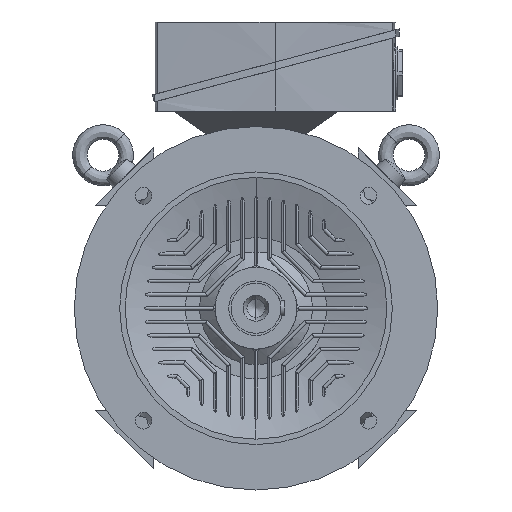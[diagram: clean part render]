
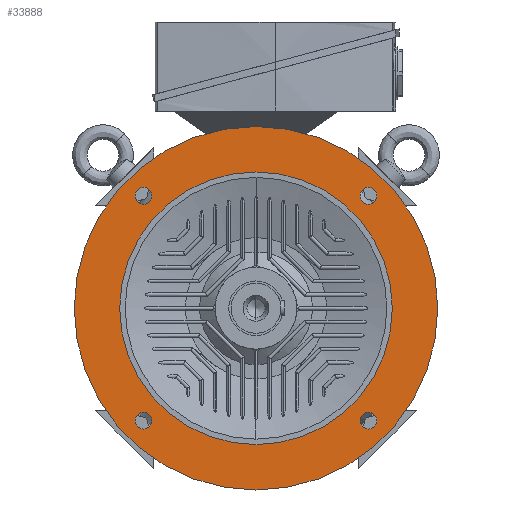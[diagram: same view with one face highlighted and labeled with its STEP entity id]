
A CAD part, left-side view. The second image highlights one B-rep face of the part: STEP entity #33888.
In plain terms, the highlighted planar face has unit normal (-1, 0, 0).
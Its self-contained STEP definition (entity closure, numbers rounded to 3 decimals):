
#42 = CARTESIAN_POINT ( 'NONE',  ( -87., 0., 0. ) ) ;
#235 = CARTESIAN_POINT ( 'NONE',  ( -87., -123.744, 114.494 ) ) ;
#1276 = ORIENTED_EDGE ( 'NONE', *, *, #20151, .T. ) ;
#2068 = CARTESIAN_POINT ( 'NONE',  ( -87., -123.744, -123.744 ) ) ;
#3187 = FACE_BOUND ( 'NONE', #7275, .T. ) ;
#3274 = VERTEX_POINT ( 'NONE', #12873 ) ;
#3490 = DIRECTION ( 'NONE',  ( 0., 0., -1. ) ) ;
#4058 = DIRECTION ( 'NONE',  ( 0., 0., 1. ) ) ;
#5959 = VERTEX_POINT ( 'NONE', #21804 ) ;
#6040 = DIRECTION ( 'NONE',  ( 0., 0., -1. ) ) ;
#6321 = ORIENTED_EDGE ( 'NONE', *, *, #43812, .T. ) ;
#6377 = EDGE_CURVE ( 'NONE', #25760, #15980, #18352, .T. ) ;
#7101 = CIRCLE ( 'NONE', #20906, 9.25 ) ;
#7275 = EDGE_LOOP ( 'NONE', ( #1276, #6321 ) ) ;
#7297 = VERTEX_POINT ( 'NONE', #7811 ) ;
#7348 = DIRECTION ( 'NONE',  ( 1., 0., 0. ) ) ;
#7503 = ORIENTED_EDGE ( 'NONE', *, *, #12934, .T. ) ;
#7811 = CARTESIAN_POINT ( 'NONE',  ( -87., 0., 200. ) ) ;
#8221 = ORIENTED_EDGE ( 'NONE', *, *, #9539, .F. ) ;
#9347 = DIRECTION ( 'NONE',  ( 1., 0., 0. ) ) ;
#9539 = EDGE_CURVE ( 'NONE', #7297, #3274, #33802, .T. ) ;
#9613 = CIRCLE ( 'NONE', #10631, 9.25 ) ;
#9852 = CARTESIAN_POINT ( 'NONE',  ( -87., 123.744, 114.494 ) ) ;
#10165 = CARTESIAN_POINT ( 'NONE',  ( -87., -123.744, 123.744 ) ) ;
#10524 = DIRECTION ( 'NONE',  ( 1., 0., 0. ) ) ;
#10631 = AXIS2_PLACEMENT_3D ( 'NONE', #14321, #42317, #18296 ) ;
#11002 = ORIENTED_EDGE ( 'NONE', *, *, #34655, .T. ) ;
#11992 = CARTESIAN_POINT ( 'NONE',  ( -87., 175., 0. ) ) ;
#12873 = CARTESIAN_POINT ( 'NONE',  ( -87., 0., -200. ) ) ;
#12934 = EDGE_CURVE ( 'NONE', #28394, #16653, #51817, .T. ) ;
#13791 = FACE_BOUND ( 'NONE', #46442, .T. ) ;
#14191 = DIRECTION ( 'NONE',  ( 0., 0., -1. ) ) ;
#14321 = CARTESIAN_POINT ( 'NONE',  ( -87., -123.744, -123.744 ) ) ;
#14571 = ORIENTED_EDGE ( 'NONE', *, *, #39103, .T. ) ;
#14951 = CARTESIAN_POINT ( 'NONE',  ( -87., 0., 0. ) ) ;
#15022 = AXIS2_PLACEMENT_3D ( 'NONE', #14951, #42963, #18928 ) ;
#15549 = AXIS2_PLACEMENT_3D ( 'NONE', #2068, #29927, #6040 ) ;
#15704 = DIRECTION ( 'NONE',  ( 1., 0., 0. ) ) ;
#15807 = EDGE_CURVE ( 'NONE', #15980, #25760, #47303, .T. ) ;
#15980 = VERTEX_POINT ( 'NONE', #36998 ) ;
#15992 = DIRECTION ( 'NONE',  ( 0., 0., 1. ) ) ;
#16480 = DIRECTION ( 'NONE',  ( 1., 0., 0. ) ) ;
#16653 = VERTEX_POINT ( 'NONE', #39963 ) ;
#17719 = VERTEX_POINT ( 'NONE', #37401 ) ;
#18296 = DIRECTION ( 'NONE',  ( 0., 0., -1. ) ) ;
#18352 = CIRCLE ( 'NONE', #23250, 9.25 ) ;
#18928 = DIRECTION ( 'NONE',  ( 0., 0., 1. ) ) ;
#19403 = CARTESIAN_POINT ( 'NONE',  ( -87., 123.744, 123.744 ) ) ;
#19806 = PLANE ( 'NONE',  #20478 ) ;
#20151 = EDGE_CURVE ( 'NONE', #41845, #17719, #34401, .T. ) ;
#20478 = AXIS2_PLACEMENT_3D ( 'NONE', #11992, #39949, #15992 ) ;
#20906 = AXIS2_PLACEMENT_3D ( 'NONE', #19403, #47468, #23406 ) ;
#20957 = CARTESIAN_POINT ( 'NONE',  ( -87., -123.744, -114.494 ) ) ;
#21252 = ORIENTED_EDGE ( 'NONE', *, *, #43273, .F. ) ;
#21804 = CARTESIAN_POINT ( 'NONE',  ( -87., 0., -150. ) ) ;
#21810 = CIRCLE ( 'NONE', #45999, 200. ) ;
#22939 = AXIS2_PLACEMENT_3D ( 'NONE', #51371, #27336, #3490 ) ;
#23104 = FACE_BOUND ( 'NONE', #32631, .T. ) ;
#23250 = AXIS2_PLACEMENT_3D ( 'NONE', #31284, #7348, #35332 ) ;
#23406 = DIRECTION ( 'NONE',  ( 0., 0., -1. ) ) ;
#24028 = EDGE_CURVE ( 'NONE', #16653, #28394, #7101, .T. ) ;
#24312 = EDGE_LOOP ( 'NONE', ( #7503, #28462 ) ) ;
#25760 = VERTEX_POINT ( 'NONE', #41903 ) ;
#26210 = CARTESIAN_POINT ( 'NONE',  ( -87., 0., 150. ) ) ;
#27269 = EDGE_LOOP ( 'NONE', ( #8221, #21252 ) ) ;
#27327 = VERTEX_POINT ( 'NONE', #20957 ) ;
#27336 = DIRECTION ( 'NONE',  ( 1., 0., 0. ) ) ;
#27917 = DIRECTION ( 'NONE',  ( 1., 0., 0. ) ) ;
#28394 = VERTEX_POINT ( 'NONE', #9852 ) ;
#28462 = ORIENTED_EDGE ( 'NONE', *, *, #24028, .T. ) ;
#29927 = DIRECTION ( 'NONE',  ( 1., 0., 0. ) ) ;
#30289 = ORIENTED_EDGE ( 'NONE', *, *, #35345, .T. ) ;
#31156 = AXIS2_PLACEMENT_3D ( 'NONE', #10165, #38149, #14191 ) ;
#31284 = CARTESIAN_POINT ( 'NONE',  ( -87., 123.744, -123.744 ) ) ;
#32631 = EDGE_LOOP ( 'NONE', ( #14571, #30289 ) ) ;
#33318 = CARTESIAN_POINT ( 'NONE',  ( -87., -123.744, 123.744 ) ) ;
#33608 = EDGE_LOOP ( 'NONE', ( #49745, #35635 ) ) ;
#33713 = VERTEX_POINT ( 'NONE', #38591 ) ;
#33790 = FACE_BOUND ( 'NONE', #33608, .T. ) ;
#33802 = CIRCLE ( 'NONE', #15022, 200. ) ;
#33888 = ADVANCED_FACE ( 'NONE', ( #13791, #44467, #3187, #36296, #33790, #23104 ), #19806, .T. ) ;
#34401 = CIRCLE ( 'NONE', #31156, 9.25 ) ;
#34478 = CARTESIAN_POINT ( 'NONE',  ( -87., 123.744, 123.744 ) ) ;
#34655 = EDGE_CURVE ( 'NONE', #36063, #5959, #51280, .T. ) ;
#35022 = ORIENTED_EDGE ( 'NONE', *, *, #41497, .T. ) ;
#35332 = DIRECTION ( 'NONE',  ( 0., 0., -1. ) ) ;
#35345 = EDGE_CURVE ( 'NONE', #27327, #33713, #51227, .T. ) ;
#35635 = ORIENTED_EDGE ( 'NONE', *, *, #15807, .T. ) ;
#36063 = VERTEX_POINT ( 'NONE', #26210 ) ;
#36296 = FACE_BOUND ( 'NONE', #24312, .T. ) ;
#36998 = CARTESIAN_POINT ( 'NONE',  ( -87., 123.744, -114.494 ) ) ;
#37344 = DIRECTION ( 'NONE',  ( 0., 0., -1. ) ) ;
#37401 = CARTESIAN_POINT ( 'NONE',  ( -87., -123.744, 132.994 ) ) ;
#38149 = DIRECTION ( 'NONE',  ( 1., 0., 0. ) ) ;
#38526 = DIRECTION ( 'NONE',  ( 0., 0., -1. ) ) ;
#38591 = CARTESIAN_POINT ( 'NONE',  ( -87., -123.744, -132.994 ) ) ;
#39103 = EDGE_CURVE ( 'NONE', #33713, #27327, #9613, .T. ) ;
#39480 = CIRCLE ( 'NONE', #46622, 150. ) ;
#39632 = AXIS2_PLACEMENT_3D ( 'NONE', #34478, #10524, #38526 ) ;
#39654 = CARTESIAN_POINT ( 'NONE',  ( -87., 0., 0. ) ) ;
#39949 = DIRECTION ( 'NONE',  ( -1., 0., 0. ) ) ;
#39963 = CARTESIAN_POINT ( 'NONE',  ( -87., 123.744, 132.994 ) ) ;
#39980 = AXIS2_PLACEMENT_3D ( 'NONE', #39654, #15704, #43702 ) ;
#40444 = CARTESIAN_POINT ( 'NONE',  ( -87., 0., 0. ) ) ;
#41497 = EDGE_CURVE ( 'NONE', #5959, #36063, #39480, .T. ) ;
#41845 = VERTEX_POINT ( 'NONE', #235 ) ;
#41903 = CARTESIAN_POINT ( 'NONE',  ( -87., 123.744, -132.994 ) ) ;
#42317 = DIRECTION ( 'NONE',  ( 1., 0., 0. ) ) ;
#42963 = DIRECTION ( 'NONE',  ( 1., 0., 0. ) ) ;
#43273 = EDGE_CURVE ( 'NONE', #3274, #7297, #21810, .T. ) ;
#43702 = DIRECTION ( 'NONE',  ( 0., 0., 1. ) ) ;
#43812 = EDGE_CURVE ( 'NONE', #17719, #41845, #45626, .T. ) ;
#44467 = FACE_OUTER_BOUND ( 'NONE', #27269, .T. ) ;
#44509 = DIRECTION ( 'NONE',  ( 0., 0., 1. ) ) ;
#45626 = CIRCLE ( 'NONE', #49348, 9.25 ) ;
#45999 = AXIS2_PLACEMENT_3D ( 'NONE', #42, #27917, #4058 ) ;
#46442 = EDGE_LOOP ( 'NONE', ( #11002, #35022 ) ) ;
#46622 = AXIS2_PLACEMENT_3D ( 'NONE', #40444, #16480, #44509 ) ;
#47303 = CIRCLE ( 'NONE', #22939, 9.25 ) ;
#47468 = DIRECTION ( 'NONE',  ( 1., 0., 0. ) ) ;
#49348 = AXIS2_PLACEMENT_3D ( 'NONE', #33318, #9347, #37344 ) ;
#49745 = ORIENTED_EDGE ( 'NONE', *, *, #6377, .T. ) ;
#51227 = CIRCLE ( 'NONE', #15549, 9.25 ) ;
#51280 = CIRCLE ( 'NONE', #39980, 150. ) ;
#51371 = CARTESIAN_POINT ( 'NONE',  ( -87., 123.744, -123.744 ) ) ;
#51817 = CIRCLE ( 'NONE', #39632, 9.25 ) ;
